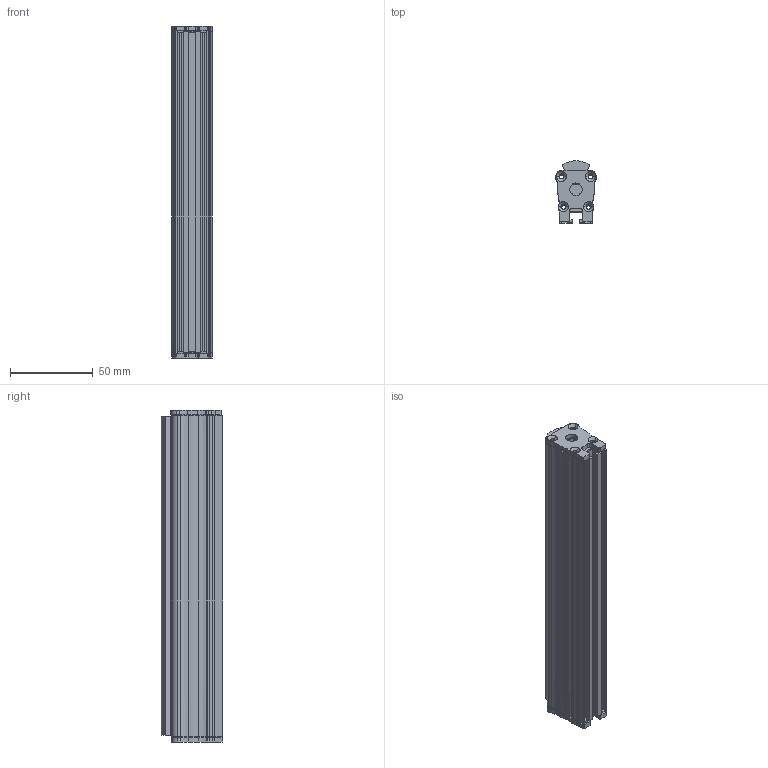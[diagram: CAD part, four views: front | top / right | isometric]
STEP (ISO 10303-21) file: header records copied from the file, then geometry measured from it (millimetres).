
FILE_DESCRIPTION(('STEP AP214'),'1');
FILE_NAME('lin+op 172.stp','2021-02-15T14:39:59',('Blanc'),('Phlox'),'Spatial InterOp 3D',' ',' ');
FILE_SCHEMA(('AUTOMOTIVE_DESIGN { 1 0 10303 214 1 1 1 1 }'));
Length unit declared in the file: inch
Products named in the file (1): Pièce_83634808
Bounding box: 24.54 x 37.28 x 200.56 mm (x, y, z)
Volume: 74360.1 mm3; surface area: 63139.6 mm2
Topology: 6 solids, 6 shells, 380 faces, 1090 edges, 718 vertices
Faces by surface type: cylinder 211, plane 103, bspline 36, cone 16, extrusion 14
Entity records: 25303 total; most frequent: CARTESIAN_POINT 7317, ORIENTED_EDGE 2180, DIRECTION 2086, STYLED_ITEM 1345, PRESENTATION_STYLE_ASSIGNMENT 1345, COLOUR_RGB 1345, EDGE_CURVE 1090, CURVE_STYLE 959
